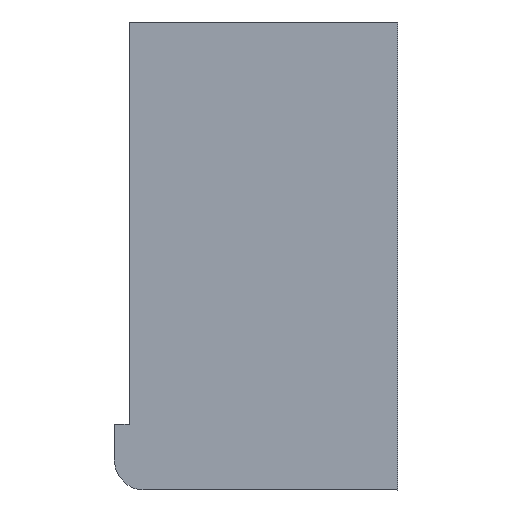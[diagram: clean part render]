
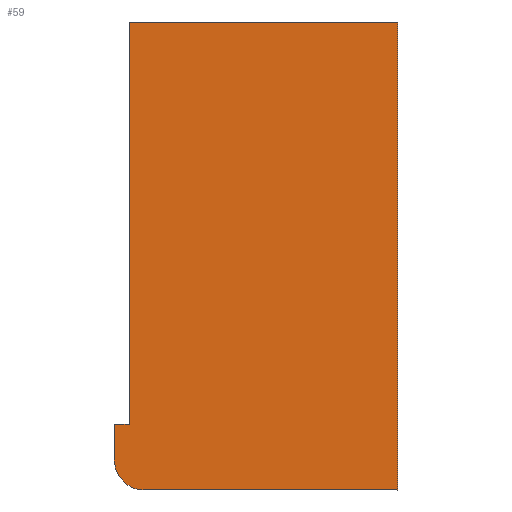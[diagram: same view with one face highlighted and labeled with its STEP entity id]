
A CAD part, left-side view. The second image highlights one B-rep face of the part: STEP entity #59.
In plain terms, the highlighted planar face has unit normal (-1, 0, 0).
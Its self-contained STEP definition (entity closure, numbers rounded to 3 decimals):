
#59=ADVANCED_FACE('',(#79),#80,.F.);
#79=FACE_OUTER_BOUND('',#100,.T.);
#80=PLANE('',#101);
#100=EDGE_LOOP('',(#161,#162,#163,#164,#165,#166,#167,#168));
#101=AXIS2_PLACEMENT_3D('',#169,#170,#171);
#161=ORIENTED_EDGE('',*,*,#207,.T.);
#162=ORIENTED_EDGE('',*,*,#185,.T.);
#163=ORIENTED_EDGE('',*,*,#190,.T.);
#164=ORIENTED_EDGE('',*,*,#193,.T.);
#165=ORIENTED_EDGE('',*,*,#196,.T.);
#166=ORIENTED_EDGE('',*,*,#199,.T.);
#167=ORIENTED_EDGE('',*,*,#202,.T.);
#168=ORIENTED_EDGE('',*,*,#205,.T.);
#169=CARTESIAN_POINT('',(35.003,1.067,0.434));
#170=DIRECTION('',(1.0,0.0,0.));
#171=DIRECTION('',(0.,0.0,-1.0));
#185=EDGE_CURVE('',#211,#208,#212,.T.);
#190=EDGE_CURVE('',#208,#218,#220,.T.);
#193=EDGE_CURVE('',#218,#223,#225,.T.);
#196=EDGE_CURVE('',#223,#228,#230,.T.);
#199=EDGE_CURVE('',#228,#233,#235,.T.);
#202=EDGE_CURVE('',#233,#238,#240,.T.);
#205=EDGE_CURVE('',#238,#243,#245,.T.);
#207=EDGE_CURVE('',#243,#211,#247,.T.);
#208=VERTEX_POINT('',#248);
#211=VERTEX_POINT('',#252);
#212=CIRCLE('',#253,1.003);
#218=VERTEX_POINT('',#260);
#220=CIRCLE('',#263,1.003);
#223=VERTEX_POINT('',#267);
#225=LINE('',#270,#271);
#228=VERTEX_POINT('',#275);
#230=LINE('',#278,#279);
#233=VERTEX_POINT('',#283);
#235=LINE('',#286,#287);
#238=VERTEX_POINT('',#291);
#240=LINE('',#294,#295);
#243=VERTEX_POINT('',#299);
#245=LINE('',#302,#303);
#247=LINE('',#306,#307);
#248=CARTESIAN_POINT('',(35.003,5.703,-7.053));
#252=CARTESIAN_POINT('',(35.003,5.995,-6.342));
#253=AXIS2_PLACEMENT_3D('',#309,#310,#311);
#260=CARTESIAN_POINT('',(35.003,4.995,-7.349));
#263=AXIS2_PLACEMENT_3D('',#320,#321,#322);
#267=CARTESIAN_POINT('',(35.003,-3.505,-7.349));
#270=CARTESIAN_POINT('',(35.003,4.995,-7.349));
#271=VECTOR('',#325,1.0);
#275=CARTESIAN_POINT('',(35.003,-3.505,8.349));
#278=CARTESIAN_POINT('',(35.003,-3.505,-7.349));
#279=VECTOR('',#328,1.0);
#283=CARTESIAN_POINT('',(35.003,5.495,8.349));
#286=CARTESIAN_POINT('',(35.003,-3.505,8.349));
#287=VECTOR('',#331,1.0);
#291=CARTESIAN_POINT('',(35.003,5.495,-5.15));
#294=CARTESIAN_POINT('',(35.003,5.495,8.349));
#295=VECTOR('',#334,1.0);
#299=CARTESIAN_POINT('',(35.003,5.995,-5.15));
#302=CARTESIAN_POINT('',(35.003,5.495,-5.15));
#303=VECTOR('',#337,1.0);
#306=CARTESIAN_POINT('',(35.003,5.995,-6.23));
#307=VECTOR('',#339,1.0);
#309=CARTESIAN_POINT('',(35.003,4.992,-6.346));
#310=DIRECTION('',(-1.0,0.0,0.));
#311=DIRECTION('',(0.,0.709,-0.705));
#320=CARTESIAN_POINT('',(35.003,4.992,-6.346));
#321=DIRECTION('',(-1.0,0.0,0.));
#322=DIRECTION('',(0.,0.709,-0.705));
#325=DIRECTION('',(0.,-1.0,0.));
#328=DIRECTION('',(0.,0.0,1.0));
#331=DIRECTION('',(0.0,1.0,0.0));
#334=DIRECTION('',(0.,0.0,-1.0));
#337=DIRECTION('',(0.0,1.0,0.0));
#339=DIRECTION('',(0.,0.,-1.0));
